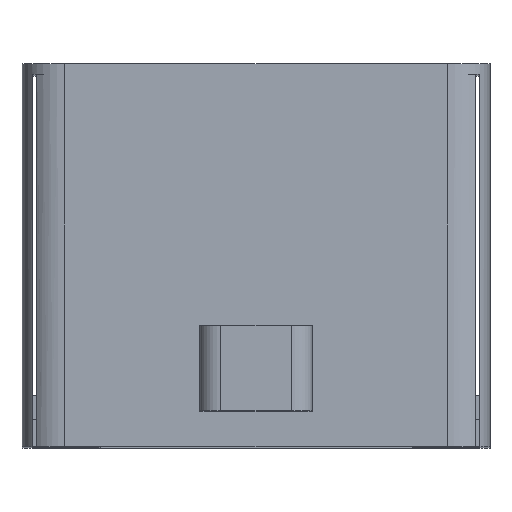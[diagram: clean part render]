
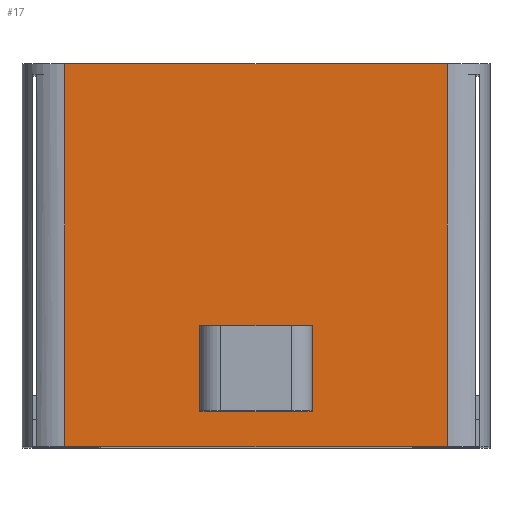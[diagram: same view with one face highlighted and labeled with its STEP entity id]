
A CAD part, top view. The second image highlights one B-rep face of the part: STEP entity #17.
In plain terms, the highlighted planar face has unit normal (0, 0, 1).
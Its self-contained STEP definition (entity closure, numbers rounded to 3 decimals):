
#17 = ADVANCED_FACE('',(#18,#52),#86,.T.);
#18 = FACE_BOUND('',#19,.T.);
#19 = EDGE_LOOP('',(#20,#30,#38,#46));
#20 = ORIENTED_EDGE('',*,*,#21,.F.);
#21 = EDGE_CURVE('',#22,#24,#26,.T.);
#22 = VERTEX_POINT('',#23);
#23 = CARTESIAN_POINT('',(118.,-255.,330.));
#24 = VERTEX_POINT('',#25);
#25 = CARTESIAN_POINT('',(118.,-147.,330.));
#26 = LINE('',#27,#28);
#27 = CARTESIAN_POINT('',(118.,-255.,330.));
#28 = VECTOR('',#29,1.);
#29 = DIRECTION('',(-0.,1.,0.));
#30 = ORIENTED_EDGE('',*,*,#31,.T.);
#31 = EDGE_CURVE('',#22,#32,#34,.T.);
#32 = VERTEX_POINT('',#33);
#33 = CARTESIAN_POINT('',(226.,-255.,330.));
#34 = LINE('',#35,#36);
#35 = CARTESIAN_POINT('',(118.,-255.,330.));
#36 = VECTOR('',#37,1.);
#37 = DIRECTION('',(1.,0.,-0.));
#38 = ORIENTED_EDGE('',*,*,#39,.T.);
#39 = EDGE_CURVE('',#32,#40,#42,.T.);
#40 = VERTEX_POINT('',#41);
#41 = CARTESIAN_POINT('',(226.,-147.,330.));
#42 = LINE('',#43,#44);
#43 = CARTESIAN_POINT('',(226.,-255.,330.));
#44 = VECTOR('',#45,1.);
#45 = DIRECTION('',(-0.,1.,0.));
#46 = ORIENTED_EDGE('',*,*,#47,.F.);
#47 = EDGE_CURVE('',#24,#40,#48,.T.);
#48 = LINE('',#49,#50);
#49 = CARTESIAN_POINT('',(118.,-147.,330.));
#50 = VECTOR('',#51,1.);
#51 = DIRECTION('',(1.,0.,-0.));
#52 = FACE_BOUND('',#53,.T.);
#53 = EDGE_LOOP('',(#54,#64,#72,#80));
#54 = ORIENTED_EDGE('',*,*,#55,.F.);
#55 = EDGE_CURVE('',#56,#58,#60,.T.);
#56 = VERTEX_POINT('',#57);
#57 = CARTESIAN_POINT('',(157.528,-245.,330.));
#58 = VERTEX_POINT('',#59);
#59 = CARTESIAN_POINT('',(186.472,-245.,330.));
#60 = LINE('',#61,#62);
#61 = CARTESIAN_POINT('',(145.,-245.,330.));
#62 = VECTOR('',#63,1.);
#63 = DIRECTION('',(1.,0.,0.));
#64 = ORIENTED_EDGE('',*,*,#65,.T.);
#65 = EDGE_CURVE('',#56,#66,#68,.T.);
#66 = VERTEX_POINT('',#67);
#67 = CARTESIAN_POINT('',(157.528,-221.,330.));
#68 = LINE('',#69,#70);
#69 = CARTESIAN_POINT('',(157.528,-245.,330.));
#70 = VECTOR('',#71,1.);
#71 = DIRECTION('',(0.,1.,0.));
#72 = ORIENTED_EDGE('',*,*,#73,.F.);
#73 = EDGE_CURVE('',#74,#66,#76,.T.);
#74 = VERTEX_POINT('',#75);
#75 = CARTESIAN_POINT('',(186.472,-221.,330.));
#76 = LINE('',#77,#78);
#77 = CARTESIAN_POINT('',(145.,-221.,330.));
#78 = VECTOR('',#79,1.);
#79 = DIRECTION('',(-1.,0.,0.));
#80 = ORIENTED_EDGE('',*,*,#81,.F.);
#81 = EDGE_CURVE('',#58,#74,#82,.T.);
#82 = LINE('',#83,#84);
#83 = CARTESIAN_POINT('',(186.472,-245.,330.));
#84 = VECTOR('',#85,1.);
#85 = DIRECTION('',(0.,1.,0.));
#86 = PLANE('',#87);
#87 = AXIS2_PLACEMENT_3D('',#88,#89,#90);
#88 = CARTESIAN_POINT('',(118.,-255.,330.));
#89 = DIRECTION('',(0.,0.,1.));
#90 = DIRECTION('',(1.,0.,-0.));
